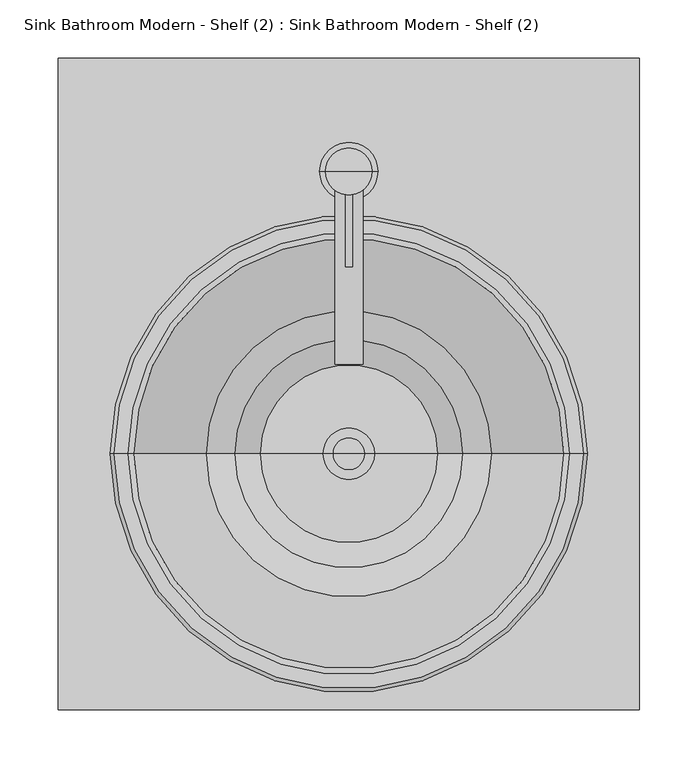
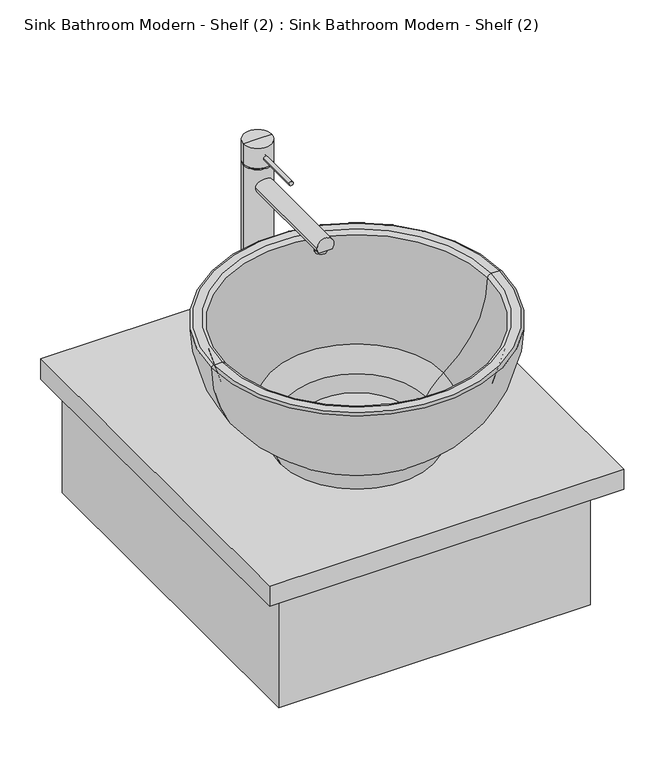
"""IFC4 building model written with IfcOpenShell, lengths in millimetres: flow terminal geometry, Sink Bathroom Modern - Shelf (2) : Sink Bathroom Modern - Shelf (2)."""

from ifc_helpers import new_model, si_unit, point, frame, frame_2d, origin, place, context, project, spatial, polyline, circle_curve, ellipse_curve, trimmed, segment, composite_curve, outline, extrude, source, transform, mapped, element, save
from ifc_brep_helpers import plane_surface, cylinder_surface, revolved_surface, advanced_brep


def sink_bathroom_modern_shelf_2_sink_bathroom_modern_shelf_2_e763d6b9(model_context):
    return source(origin(), model_context, "Body", "SolidModel", [
        advanced_brep(
        [(36.8498666, -263.0115865, 240.6419785), (12.8498666, -263.0115865, 240.6419785), (15.4584351, -263.0115865, 233.1719709), (34.2412981, -263.0115865, 233.1719709), (12.8498666, -97.3032703, 240.6419785), (36.8498666, -97.3032703, 240.6419785), (34.2412981, -238.0115865, 233.1719709), (15.4584351, -238.0115865, 233.1719709)],
        [
            (0, 1, circle_curve(frame((24.8498666, -263.0115865, 240.6419785), z_axis=(0.0, -1.0, 0.0), x_axis=(1.0000000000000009, 0.0, 0.0)), 12.0)),
            (1, 2, circle_curve(frame((24.8498666, -263.0115865, 240.6419785), z_axis=(0.0, -1.0, 0.0), x_axis=(1.0000000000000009, 0.0, 0.0)), 12.0)),
            (2, 3),
            (3, 0, circle_curve(frame((24.8498666, -263.0115865, 240.6419785), z_axis=(0.0, -1.0, 0.0), x_axis=(1.0000000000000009, 0.0, 0.0)), 12.0)),
            (4, 5, circle_curve(frame((24.8498666, -97.3032703, 240.6419785), z_axis=(0.0, 1.0, 0.0), x_axis=(1.0000000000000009, 0.0, 0.0)), 12.0)),
            (5, 4, circle_curve(frame((24.8498666, -97.3032703, 240.6419785), z_axis=(0.0, 1.0, 0.0), x_axis=(1.0000000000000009, 0.0, 0.0)), 12.0)),
            (5, 0),
            (3, 6),
            (6, 7, circle_curve(frame((24.8498666, -238.0115865, 240.6419785), z_axis=(0.0, 1.0, 0.0), x_axis=(1.0000000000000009, 0.0, 0.0)), 12.0)),
            (7, 2),
            (1, 4),
            (7, 6),
        ],
        [
            plane_surface(frame((36.8498666, -263.0115865, 240.6419785), z_axis=(0.0, -1.0, 0.0), x_axis=(0.0, 0.0, 1.0))),
            plane_surface(frame((36.8498666, -97.3032703, 240.6419785), z_axis=(0.0, 1.0, 0.0), x_axis=(0.0, 0.0, -1.0))),
            cylinder_surface(frame((24.8498666, -97.3032703, 240.6419785), z_axis=(0.0, -1.0000000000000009, 0.0), x_axis=(1.0000000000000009, 0.0, 0.0)), 12.0),
            plane_surface(frame((9.4348983, -263.0115865, 233.1719709), z_axis=(0.0, 0.0, -1.0), x_axis=(1.0, 0.0, 0.0))),
            plane_surface(frame((9.4348983, -238.0115865, 233.1719709), z_axis=(0.0, -1.0, 0.0), x_axis=(1.0, 0.0, 0.0))),
        ],
        [
            (0, [[1, 2, 3, 4]]),
            (1, [[5, 6]]),
            (2, [[-6, 7, -4, 8, 9, 10, -2, 11]]),
            (2, [[-1, -7, -5, -11]]),
            (3, [[12, -8, -3, -10]]),
            (4, [[-12, -9]]),
        ],
    ),
        extrude(outline(composite_curve([segment(trimmed(circle_curve(frame_2d((283.2676852, 24.8498666)), 3.0), [point((283.2676852, 21.8498666))], [point((283.2676852, 27.8498666))], False, "CARTESIAN"), True, "CONTINUOUS"), segment(trimmed(circle_curve(frame_2d((283.2676852, 24.8498666)), 3.0), [point((283.2676852, 27.8498666))], [point((283.2676852, 21.8498666))], False, "CARTESIAN"), True, "CONTINUOUS")], self_intersect=False)), frame((0.0, -179.3463368, 0.0), z_axis=(0.0, 1.0, 0.0), x_axis=(0.0, 0.0, 1.0)), (0.0, 0.0, 1.0), 82.0430665),
        advanced_brep(
        [(24.8498666, -97.3032703, 0.0), (-0.1501334, -97.3032703, 0.0), (49.8498666, -97.3032703, 0.0), (44.8498666, -97.3032703, 300.0), (4.8498666, -97.3032703, 300.0), (24.8498666, -97.3032703, 300.0), (44.8498666, -97.3032703, 270.0), (4.8498666, -97.3032703, 270.0), (42.8498666, -97.3032703, 270.0), (6.8498666, -97.3032703, 270.0), (42.8498666, -97.3032703, 268.0), (6.8498666, -97.3032703, 268.0), (44.8498666, -97.3032703, 268.0), (4.8498666, -97.3032703, 268.0), (44.8498666, -97.3032703, 4.0), (4.8498666, -97.3032703, 4.0), (49.8498666, -97.3032703, 4.0), (-0.1501334, -97.3032703, 4.0)],
        [
            (0, 1),
            (1, 2, circle_curve(frame((24.8498666, -97.3032703, 0.0), z_axis=(0.0, 0.0, -1.0), x_axis=(-1.0000000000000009, 0.0, 0.0)), 25.0)),
            (2, 0),
            (2, 1, circle_curve(frame((24.8498666, -97.3032703, 0.0), z_axis=(0.0, 0.0, -1.0), x_axis=(-1.0000000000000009, 0.0, 0.0)), 25.0)),
            (3, 4, circle_curve(frame((24.8498666, -97.3032703, 300.0), z_axis=(0.0, 0.0, 1.0), x_axis=(-1.0000000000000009, 0.0, 0.0)), 20.0)),
            (4, 5),
            (5, 3),
            (4, 3, circle_curve(frame((24.8498666, -97.3032703, 300.0), z_axis=(0.0, 0.0, 1.0), x_axis=(-1.0000000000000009, 0.0, 0.0)), 20.0)),
            (3, 6),
            (6, 7, circle_curve(frame((24.8498666, -97.3032703, 270.0), z_axis=(0.0, 0.0, 1.0), x_axis=(-1.0000000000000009, 0.0, 0.0)), 20.0)),
            (7, 4),
            (7, 6, circle_curve(frame((24.8498666, -97.3032703, 270.0), z_axis=(0.0, 0.0, 1.0), x_axis=(-1.0000000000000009, 0.0, 0.0)), 20.0)),
            (6, 8),
            (8, 9, circle_curve(frame((24.8498666, -97.3032703, 270.0), z_axis=(0.0, 0.0, 1.0), x_axis=(-1.0000000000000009, 0.0, 0.0)), 18.0)),
            (9, 7),
            (9, 8, circle_curve(frame((24.8498666, -97.3032703, 270.0), z_axis=(0.0, 0.0, 1.0), x_axis=(-1.0000000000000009, 0.0, 0.0)), 18.0)),
            (8, 10),
            (10, 11, circle_curve(frame((24.8498666, -97.3032703, 268.0), z_axis=(0.0, 0.0, 1.0), x_axis=(-1.0000000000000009, 0.0, 0.0)), 18.0)),
            (11, 9),
            (11, 10, circle_curve(frame((24.8498666, -97.3032703, 268.0), z_axis=(0.0, 0.0, 1.0), x_axis=(-1.0000000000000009, 0.0, 0.0)), 18.0)),
            (10, 12),
            (12, 13, circle_curve(frame((24.8498666, -97.3032703, 268.0), z_axis=(0.0, 0.0, 1.0), x_axis=(-1.0000000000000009, 0.0, 0.0)), 20.0)),
            (13, 11),
            (13, 12, circle_curve(frame((24.8498666, -97.3032703, 268.0), z_axis=(0.0, 0.0, 1.0), x_axis=(-1.0000000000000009, 0.0, 0.0)), 20.0)),
            (12, 14),
            (14, 15, circle_curve(frame((24.8498666, -97.3032703, 4.0), z_axis=(0.0, 0.0, 1.0), x_axis=(-1.0000000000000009, 0.0, 0.0)), 20.0)),
            (15, 13),
            (15, 14, circle_curve(frame((24.8498666, -97.3032703, 4.0), z_axis=(0.0, 0.0, 1.0), x_axis=(-1.0000000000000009, 0.0, 0.0)), 20.0)),
            (14, 16),
            (16, 17, circle_curve(frame((24.8498666, -97.3032703, 4.0), z_axis=(0.0, 0.0, 1.0), x_axis=(-1.0000000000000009, 0.0, 0.0)), 25.0)),
            (17, 15),
            (17, 16, circle_curve(frame((24.8498666, -97.3032703, 4.0), z_axis=(0.0, 0.0, 1.0), x_axis=(-1.0000000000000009, 0.0, 0.0)), 25.0)),
            (1, 17),
            (16, 2),
        ],
        [
            plane_surface(frame((24.8498666, -97.3032703, 0.0), z_axis=(0.0, 0.0, -1.0), x_axis=(-1.0, 0.0, 0.0))),
            plane_surface(frame((24.8498666, -97.3032703, 300.0), z_axis=(0.0, 0.0, 1.0), x_axis=(-1.0, 0.0, 0.0))),
            cylinder_surface(frame((24.8498666, -97.3032703, -25.0), z_axis=(0.0, 0.0, -1.0), x_axis=(-1.0000000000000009, 0.0, 0.0)), 20.0),
            plane_surface(frame((24.8498666, -97.3032703, 270.0), z_axis=(0.0, 0.0, -1.0), x_axis=(-1.0, 0.0, 0.0))),
            cylinder_surface(frame((24.8498666, -97.3032703, -25.0), z_axis=(0.0, 0.0, -1.0), x_axis=(-1.0000000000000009, 0.0, 0.0)), 18.0),
            plane_surface(frame((24.8498666, -97.3032703, 268.0), z_axis=(0.0, 0.0, 1.0), x_axis=(-1.0, 0.0, 0.0))),
            plane_surface(frame((24.8498666, -97.3032703, 4.0), z_axis=(0.0, 0.0, 1.0), x_axis=(-1.0, 0.0, 0.0))),
            cylinder_surface(frame((24.8498666, -97.3032703, -25.0), z_axis=(0.0, 0.0, -1.0), x_axis=(-1.0000000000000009, 0.0, 0.0)), 25.0),
        ],
        [
            (0, [[1, 2, 3]]),
            (0, [[-1, -3, 4]]),
            (1, [[5, 6, 7]]),
            (1, [[-6, 8, -7]]),
            (2, [[-5, 9, 10, 11]]),
            (2, [[-8, -11, 12, -9]]),
            (3, [[-10, 13, 14, 15]]),
            (3, [[-12, -15, 16, -13]]),
            (4, [[-14, 17, 18, 19]]),
            (4, [[-16, -19, 20, -17]]),
            (5, [[-18, 21, 22, 23]]),
            (5, [[-20, -23, 24, -21]]),
            (2, [[-22, 25, 26, 27]]),
            (2, [[-24, -27, 28, -25]]),
            (6, [[-26, 29, 30, 31]]),
            (6, [[-28, -31, 32, -29]]),
            (7, [[-2, 33, -30, 34]]),
            (7, [[-4, -34, -32, -33]]),
        ],
    ),
        advanced_brep(
        [(16.8498666, -251.7329747, 233.1719709), (32.8498666, -251.7329747, 233.1719709), (16.8498666, -251.7329747, 227.0717002), (32.8498666, -251.7329747, 227.0717002)],
        [
            (0, 1, circle_curve(frame((24.8498666, -251.7329747, 233.1719709), z_axis=(0.0, 0.0, 1.0), x_axis=(1.0000000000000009, 0.0, 0.0)), 8.0)),
            (1, 0, circle_curve(frame((24.8498666, -251.7329747, 233.1719709), z_axis=(0.0, 0.0, 1.0), x_axis=(1.0000000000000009, 0.0, 0.0)), 8.0)),
            (2, 3, circle_curve(frame((24.8498666, -251.7329747, 227.0717002), z_axis=(0.0, 0.0, -1.0), x_axis=(1.0000000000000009, 0.0, 0.0)), 8.0)),
            (3, 2, circle_curve(frame((24.8498666, -251.7329747, 227.0717002), z_axis=(0.0, 0.0, -1.0), x_axis=(1.0000000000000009, 0.0, 0.0)), 8.0)),
            (0, 2),
            (3, 1),
        ],
        [
            plane_surface(frame((32.8498666, -251.7329747, 233.1719709), z_axis=(0.0, 0.0, 1.0), x_axis=(0.0, 1.0, 0.0))),
            plane_surface(frame((32.8498666, -251.7329747, 227.0717002), z_axis=(0.0, 0.0, -1.0), x_axis=(0.0, -1.0, 0.0))),
            cylinder_surface(frame((24.8498666, -251.7329747, 227.0717002), z_axis=(0.0, 0.0, 1.0), x_axis=(1.0000000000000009, 0.0, 0.0)), 8.0),
        ],
        [
            (0, [[1, 2]]),
            (1, [[3, 4]]),
            (2, [[-1, 5, -4, 6]]),
            (2, [[-2, -6, -3, -5]]),
        ],
    ),
        extrude(outline(polyline([(244.8498666, 0.0), (244.8498666, -530.0), (-195.1501334, -530.0), (-195.1501334, 0.0), (244.8498666, 0.0)])), frame((0.0, 0.0, -210.1486732), z_axis=(0.0, 0.0, 1.0), x_axis=(1.0, 0.0, 0.0)), (0.0, 0.0, 1.0), 180.1486732),
        advanced_brep(
        [(38.5877729, -340.0, 15.0), (11.1119603, -340.0, 15.0), (2.8498666, -340.0, 15.0), (46.8498666, -340.0, 15.0), (38.5877729, -340.0, 3.7247134), (11.1119603, -340.0, 3.7247134), (24.8498666, -340.0, 3.7247134), (41.8498666, -340.0, 0.0), (7.8498666, -340.0, 0.0), (24.8498666, -340.0, 0.0), (41.8498666, -340.0, 13.464751), (7.8498666, -340.0, 13.464751), (46.8498666, -340.0, 13.464751), (2.8498666, -340.0, 13.464751)],
        [
            (0, 1, circle_curve(frame((24.8498666, -340.0, 15.0), z_axis=(0.0, 0.0, -1.0), x_axis=(-1.0, 0.0, 0.0)), 13.7379063)),
            (1, 2),
            (2, 3, circle_curve(frame((24.8498666, -340.0, 15.0), z_axis=(0.0, 0.0, 1.0), x_axis=(-1.0, 0.0, 0.0)), 22.0)),
            (3, 0),
            (1, 0, circle_curve(frame((24.8498666, -340.0, 15.0), z_axis=(0.0, 0.0, -1.0), x_axis=(-1.0, 0.0, 0.0)), 13.7379063)),
            (3, 2, circle_curve(frame((24.8498666, -340.0, 15.0), z_axis=(0.0, 0.0, 1.0), x_axis=(-1.0, 0.0, 0.0)), 22.0)),
            (4, 5, circle_curve(frame((24.8498666, -340.0, 3.7247134), z_axis=(0.0, 0.0, -1.0), x_axis=(-1.0, 0.0, 0.0)), 13.7379063)),
            (5, 1),
            (0, 4),
            (5, 4, circle_curve(frame((24.8498666, -340.0, 3.7247134), z_axis=(0.0, 0.0, -1.0), x_axis=(-1.0, 0.0, 0.0)), 13.7379063)),
            (6, 5),
            (4, 6),
            (7, 8, circle_curve(frame((24.8498666, -340.0, 0.0), z_axis=(0.0, 0.0, -1.0), x_axis=(-1.0, 0.0, 0.0)), 17.0)),
            (8, 9),
            (9, 7),
            (8, 7, circle_curve(frame((24.8498666, -340.0, 0.0), z_axis=(0.0, 0.0, -1.0), x_axis=(-1.0, 0.0, 0.0)), 17.0)),
            (10, 11, circle_curve(frame((24.8498666, -340.0, 13.464751), z_axis=(0.0, 0.0, -1.0), x_axis=(-1.0, 0.0, 0.0)), 17.0)),
            (11, 8),
            (7, 10),
            (11, 10, circle_curve(frame((24.8498666, -340.0, 13.464751), z_axis=(0.0, 0.0, -1.0), x_axis=(-1.0, 0.0, 0.0)), 17.0)),
            (12, 13, circle_curve(frame((24.8498666, -340.0, 13.464751), z_axis=(0.0, 0.0, -1.0), x_axis=(-1.0, 0.0, 0.0)), 22.0)),
            (13, 11),
            (10, 12),
            (13, 12, circle_curve(frame((24.8498666, -340.0, 13.464751), z_axis=(0.0, 0.0, -1.0), x_axis=(-1.0, 0.0, 0.0)), 22.0)),
            (2, 13),
            (12, 3),
        ],
        [
            plane_surface(frame((24.8498666, -340.0, 15.0), z_axis=(0.0, 0.0, 1.0), x_axis=(-1.0, 0.0, 0.0))),
            revolved_surface(polyline([(11.111960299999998, -340.0, 15.000000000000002), (11.111960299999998, -340.0, 3.7247134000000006)]), (24.8498666, -340.0, -6.9916745), (0.0, 0.0, 1.0)),
            plane_surface(frame((24.8498666, -340.0, 3.7247134), z_axis=(0.0, 0.0, 1.0), x_axis=(-1.0, 0.0, 0.0))),
            plane_surface(frame((24.8498666, -340.0, 0.0), z_axis=(0.0, 0.0, -1.0), x_axis=(-1.0, 0.0, 0.0))),
            cylinder_surface(frame((24.8498666, -340.0, -6.9916745), z_axis=(0.0, 0.0, 1.0), x_axis=(-1.0, 0.0, 0.0)), 17.0),
            plane_surface(frame((24.8498666, -340.0, 13.464751), z_axis=(0.0, 0.0, -1.0), x_axis=(-1.0, 0.0, 0.0))),
            cylinder_surface(frame((24.8498666, -340.0, -6.9916745), z_axis=(0.0, 0.0, 1.0), x_axis=(-1.0, 0.0, 0.0)), 22.0),
        ],
        [
            (0, [[1, 2, 3, 4]]),
            (0, [[5, -4, 6, -2]]),
            (1, [[7, 8, -1, 9]]),
            (1, [[10, -9, -5, -8]]),
            (2, [[11, -7, 12]]),
            (2, [[-12, -10, -11]]),
            (3, [[13, 14, 15]]),
            (3, [[16, -15, -14]]),
            (4, [[17, 18, -13, 19]]),
            (4, [[20, -19, -16, -18]]),
            (5, [[21, 22, -17, 23]]),
            (5, [[24, -23, -20, -22]]),
            (6, [[-3, 25, -21, 26]]),
            (6, [[-6, -26, -24, -25]]),
        ],
    ),
        extrude(outline(polyline([(274.8498666, 0.0), (274.8498666, -560.0), (-225.1501334, -560.0), (-225.1501334, 0.0), (274.8498666, 0.0)])), frame((0.0, 0.0, -30.0), z_axis=(0.0, 0.0, 1.0), x_axis=(1.0, 0.0, 0.0)), (0.0, 0.0, 1.0), 30.0),
        advanced_brep(
        [(159.492516, -340.0, 38.9404698), (-109.7927828, -340.0, 38.9404698), (-83.6446991, -340.0, 0.0149562), (133.3444323, -340.0, 0.0149562), (229.8893941, -340.0, 176.9639382), (-180.1896609, -340.0, 176.9639382), (226.8893975, -340.0, 179.9594217), (-177.1896643, -340.0, 179.9594217), (214.8413431, -340.0, 179.9594217), (-165.1416099, -340.0, 179.9594217), (209.8416315, -340.0, 175.0131262), (-160.1418983, -340.0, 175.0131262), (147.7614611, -340.0, 55.100298), (-98.0617279, -340.0, 55.100298), (123.0230307, -340.0, 27.5820235), (-73.3232975, -340.0, 27.5820235), (101.325246, -340.0, 15.0), (-51.6255129, -340.0, 15.0), (46.8498666, -340.0, 15.0), (2.8498666, -340.0, 15.0), (46.8498666, -340.0, 13.464751), (2.8498666, -340.0, 13.464751), (41.8498666, -340.0, 13.464751), (7.8498666, -340.0, 13.464751), (41.8498666, -340.0, 0.0149562), (7.8498666, -340.0, 0.0149562)],
        [
            (0, 1, circle_curve(frame((24.8498666, -340.0, 38.9404698), z_axis=(0.0, 0.0, -1.0), x_axis=(-1.0, 0.0, 0.0)), 134.6426494)),
            (1, 2, circle_curve(frame((-149.498803, -340.0, -15.9771174), z_axis=(0.0, 1.0, 0.0), x_axis=(-1.0, 0.0, 0.0)), 67.7680561)),
            (2, 3, circle_curve(frame((24.8498666, -340.0, 0.0149562), z_axis=(0.0, 0.0, 1.0), x_axis=(-1.0, 0.0, 0.0)), 108.4945657)),
            (3, 0, circle_curve(frame((199.1985362, -340.0, -15.9771174), z_axis=(0.0, 1.0, 0.0), x_axis=(1.0, 0.0, 0.0)), 67.7680561)),
            (1, 0, circle_curve(frame((24.8498666, -340.0, 38.9404698), z_axis=(0.0, 0.0, -1.0), x_axis=(-1.0, 0.0, 0.0)), 134.6426494)),
            (3, 2, circle_curve(frame((24.8498666, -340.0, 0.0149562), z_axis=(0.0, 0.0, 1.0), x_axis=(-1.0, 0.0, 0.0)), 108.4945657)),
            (4, 5, circle_curve(frame((24.8498666, -340.0, 176.9639382), z_axis=(0.0, 0.0, -1.0), x_axis=(-1.0, 0.0, 0.0)), 205.0395275)),
            (5, 1, circle_curve(frame((-10.185344, -340.0, 176.7079965), z_axis=(0.0, -1.0, 0.0), x_axis=(-1.0, 0.0, 0.0)), 170.0045096)),
            (0, 4, circle_curve(frame((59.8850772, -340.0, 176.7079965), z_axis=(0.0, -1.0, 0.0), x_axis=(1.0, 0.0, 0.0)), 170.0045096)),
            (5, 4, circle_curve(frame((24.8498666, -340.0, 176.9639382), z_axis=(0.0, 0.0, -1.0), x_axis=(-1.0, 0.0, 0.0)), 205.0395275)),
            (6, 7, circle_curve(frame((24.8498666, -340.0, 179.9594217), z_axis=(0.0, 0.0, -1.0), x_axis=(-1.0, 0.0, 0.0)), 202.0395309)),
            (7, 5, circle_curve(frame((-177.1896643, -340.0, 176.9594217), z_axis=(0.0, -1.0, 0.0), x_axis=(-1.0, 0.0, 0.0)), 3.0)),
            (4, 6, circle_curve(frame((226.8893975, -340.0, 176.9594217), z_axis=(0.0, -1.0, 0.0), x_axis=(1.0, 0.0, 0.0)), 3.0)),
            (7, 6, circle_curve(frame((24.8498666, -340.0, 179.9594217), z_axis=(0.0, 0.0, -1.0), x_axis=(-1.0, 0.0, 0.0)), 202.0395309)),
            (8, 9, circle_curve(frame((24.8498666, -340.0, 179.9594217), z_axis=(0.0, 0.0, -1.0), x_axis=(-1.0, 0.0, 0.0)), 189.9914765)),
            (9, 7),
            (6, 8),
            (9, 8, circle_curve(frame((24.8498666, -340.0, 179.9594217), z_axis=(0.0, 0.0, -1.0), x_axis=(-1.0, 0.0, 0.0)), 189.9914765)),
            (10, 11, circle_curve(frame((24.8498666, -340.0, 175.0131262), z_axis=(0.0, 0.0, -1.0), x_axis=(-1.0, 0.0, 0.0)), 184.9917649)),
            (11, 9, circle_curve(frame((-165.1416099, -340.0, 174.9594217), z_axis=(0.0, -1.0, 0.0), x_axis=(-1.0, 0.0, 0.0)), 5.0)),
            (8, 10, circle_curve(frame((214.8413431, -340.0, 174.9594217), z_axis=(0.0, -1.0, 0.0), x_axis=(1.0, 0.0, 0.0)), 5.0)),
            (11, 10, circle_curve(frame((24.8498666, -340.0, 175.0131262), z_axis=(0.0, 0.0, -1.0), x_axis=(-1.0, 0.0, 0.0)), 184.9917649)),
            (12, 13, circle_curve(frame((24.8498666, -340.0, 55.100298), z_axis=(0.0, 0.0, -1.0), x_axis=(-1.0, 0.0, 0.0)), 122.9115945)),
            (13, 11, circle_curve(frame((-10.1797596, -340.0, 176.6239477), z_axis=(0.0, 1.0, 0.0), x_axis=(-1.0, 0.0, 0.0)), 149.9707898)),
            (10, 12, circle_curve(frame((59.8794928, -340.0, 176.6239477), z_axis=(0.0, 1.0, 0.0), x_axis=(1.0, 0.0, 0.0)), 149.9707898)),
            (13, 12, circle_curve(frame((24.8498666, -340.0, 55.100298), z_axis=(0.0, 0.0, -1.0), x_axis=(-1.0, 0.0, 0.0)), 122.9115945)),
            (14, 15, circle_curve(frame((24.8498666, -340.0, 27.5820235), z_axis=(0.0, 0.0, -1.0), x_axis=(-1.0, 0.0, 0.0)), 98.1731641)),
            (15, 13, circle_curve(frame((-149.4830487, -340.0, -16.0053759), z_axis=(0.0, -1.0, 0.0), x_axis=(-1.0, 0.0, 0.0)), 87.7506073)),
            (12, 14, circle_curve(frame((199.1827819, -340.0, -16.0053759), z_axis=(0.0, -1.0, 0.0), x_axis=(1.0, 0.0, 0.0)), 87.7506073)),
            (15, 14, circle_curve(frame((24.8498666, -340.0, 27.5820235), z_axis=(0.0, 0.0, -1.0), x_axis=(-1.0, 0.0, 0.0)), 98.1731641)),
            (16, 17, circle_curve(frame((24.8498666, -340.0, 15.0), z_axis=(0.0, 0.0, -1.0), x_axis=(-1.0, 0.0, 0.0)), 76.4753794)),
            (17, 15, circle_curve(frame((-51.6255129, -340.0, 40.0), z_axis=(0.0, 1.0, 0.0), x_axis=(-1.0, 0.0, 0.0)), 25.0)),
            (14, 16, circle_curve(frame((101.325246, -340.0, 40.0), z_axis=(0.0, 1.0, 0.0), x_axis=(1.0, 0.0, 0.0)), 25.0)),
            (17, 16, circle_curve(frame((24.8498666, -340.0, 15.0), z_axis=(0.0, 0.0, -1.0), x_axis=(-1.0, 0.0, 0.0)), 76.4753794)),
            (18, 19, circle_curve(frame((24.8498666, -340.0, 15.0), z_axis=(0.0, 0.0, -1.0), x_axis=(-1.0, 0.0, 0.0)), 22.0)),
            (19, 17),
            (16, 18),
            (19, 18, circle_curve(frame((24.8498666, -340.0, 15.0), z_axis=(0.0, 0.0, -1.0), x_axis=(-1.0, 0.0, 0.0)), 22.0)),
            (20, 21, circle_curve(frame((24.8498666, -340.0, 13.464751), z_axis=(0.0, 0.0, -1.0), x_axis=(-1.0, 0.0, 0.0)), 22.0)),
            (21, 19),
            (18, 20),
            (21, 20, circle_curve(frame((24.8498666, -340.0, 13.464751), z_axis=(0.0, 0.0, -1.0), x_axis=(-1.0, 0.0, 0.0)), 22.0)),
            (22, 23, circle_curve(frame((24.8498666, -340.0, 13.464751), z_axis=(0.0, 0.0, -1.0), x_axis=(-1.0, 0.0, 0.0)), 17.0)),
            (23, 21),
            (20, 22),
            (23, 22, circle_curve(frame((24.8498666, -340.0, 13.464751), z_axis=(0.0, 0.0, -1.0), x_axis=(-1.0, 0.0, 0.0)), 17.0)),
            (24, 25, circle_curve(frame((24.8498666, -340.0, 0.0149562), z_axis=(0.0, 0.0, -1.0), x_axis=(-1.0, 0.0, 0.0)), 17.0)),
            (25, 23),
            (22, 24),
            (25, 24, circle_curve(frame((24.8498666, -340.0, 0.0149562), z_axis=(0.0, 0.0, -1.0), x_axis=(-1.0, 0.0, 0.0)), 17.0)),
            (2, 25),
            (24, 3),
        ],
        [
            revolved_surface(trimmed(ellipse_curve(frame((-149.498803, -340.0, -15.9771174), z_axis=(0.0, -1.0, 0.0), x_axis=(-1.0, 0.0, 0.0)), 67.7680561, 67.7680561), [point((-83.6446991, -340.0, 0.0149562))], [point((-109.7927828, -340.0, 38.9404698))], True, "CARTESIAN"), (24.8498666, -340.0, -50.0), (0.0, 0.0, 1.0)),
            revolved_surface(trimmed(ellipse_curve(frame((-10.185344, -340.0, 176.7079965), z_axis=(0.0, 1.0, 0.0), x_axis=(-1.0, 0.0, 0.0)), 170.0045096, 170.0045096), [point((-109.7927828, -340.0, 38.9404698))], [point((-180.1896609, -340.0, 176.9639382))], True, "CARTESIAN"), (24.8498666, -340.0, -50.0), (0.0, 0.0, 1.0)),
            revolved_surface(trimmed(ellipse_curve(frame((-177.1896643, -340.0, 176.9594217), z_axis=(0.0, 1.0, 0.0), x_axis=(-1.0, 0.0, 0.0)), 3.0, 3.0), [point((-180.1896609, -340.0, 176.9639382))], [point((-177.1896643, -340.0, 179.9594217))], True, "CARTESIAN"), (24.8498666, -340.0, -50.0), (0.0, 0.0, 1.0)),
            plane_surface(frame((24.8498666, -340.0, 179.9594217), z_axis=(0.0, 0.0, 1.0), x_axis=(-1.0, 0.0, 0.0))),
            revolved_surface(trimmed(ellipse_curve(frame((-165.1416099, -340.0, 174.9594217), z_axis=(0.0, 1.0, 0.0), x_axis=(-1.0, 0.0, 0.0)), 5.0, 5.0), [point((-165.1416099, -340.0, 179.9594217))], [point((-160.1418983, -340.0, 175.0131262))], True, "CARTESIAN"), (24.8498666, -340.0, -50.0), (0.0, 0.0, 1.0)),
            revolved_surface(trimmed(ellipse_curve(frame((-10.1797596, -340.0, 176.6239477), z_axis=(0.0, -1.0, 0.0), x_axis=(-1.0, 0.0, 0.0)), 149.9707898, 149.9707898), [point((-160.1418983, -340.0, 175.0131262))], [point((-98.0617279, -340.0, 55.100298))], True, "CARTESIAN"), (24.8498666, -340.0, -50.0), (0.0, 0.0, 1.0)),
            revolved_surface(trimmed(ellipse_curve(frame((-149.4830487, -340.0, -16.0053759), z_axis=(0.0, 1.0, 0.0), x_axis=(-1.0, 0.0, 0.0)), 87.7506073, 87.7506073), [point((-98.0617279, -340.0, 55.100298))], [point((-73.3232975, -340.0, 27.5820235))], True, "CARTESIAN"), (24.8498666, -340.0, -50.0), (0.0, 0.0, 1.0)),
            revolved_surface(trimmed(ellipse_curve(frame((-51.6255129, -340.0, 40.0), z_axis=(0.0, -1.0, 0.0), x_axis=(-1.0, 0.0, 0.0)), 25.0, 25.0), [point((-73.3232975, -340.0, 27.5820235))], [point((-51.6255129, -340.0, 15.0))], True, "CARTESIAN"), (24.8498666, -340.0, -50.0), (0.0, 0.0, 1.0)),
            plane_surface(frame((24.8498666, -340.0, 15.0), z_axis=(0.0, 0.0, 1.0), x_axis=(-1.0, 0.0, 0.0))),
            revolved_surface(polyline([(2.8498665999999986, -340.0, 15.0), (2.8498665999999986, -340.0, 13.464751)]), (24.8498666, -340.0, -50.0), (0.0, 0.0, 1.0)),
            plane_surface(frame((24.8498666, -340.0, 13.464751), z_axis=(0.0, 0.0, 1.0), x_axis=(-1.0, 0.0, 0.0))),
            revolved_surface(polyline([(7.849866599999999, -340.0, 13.464751), (7.849866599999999, -340.0, 0.014956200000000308)]), (24.8498666, -340.0, -50.0), (0.0, 0.0, 1.0)),
            plane_surface(frame((24.8498666, -340.0, 0.0149562), z_axis=(0.0, 0.0, -1.0), x_axis=(-1.0, 0.0, 0.0))),
        ],
        [
            (0, [[1, 2, 3, 4]]),
            (0, [[5, -4, 6, -2]]),
            (1, [[7, 8, -1, 9]]),
            (1, [[10, -9, -5, -8]]),
            (2, [[11, 12, -7, 13]]),
            (2, [[14, -13, -10, -12]]),
            (3, [[15, 16, -11, 17]]),
            (3, [[18, -17, -14, -16]]),
            (4, [[19, 20, -15, 21]]),
            (4, [[22, -21, -18, -20]]),
            (5, [[23, 24, -19, 25]]),
            (5, [[26, -25, -22, -24]]),
            (6, [[27, 28, -23, 29]]),
            (6, [[30, -29, -26, -28]]),
            (7, [[31, 32, -27, 33]]),
            (7, [[34, -33, -30, -32]]),
            (8, [[35, 36, -31, 37]]),
            (8, [[38, -37, -34, -36]]),
            (9, [[39, 40, -35, 41]]),
            (9, [[42, -41, -38, -40]]),
            (10, [[43, 44, -39, 45]]),
            (10, [[46, -45, -42, -44]]),
            (11, [[47, 48, -43, 49]]),
            (11, [[50, -49, -46, -48]]),
            (12, [[-3, 51, -47, 52]]),
            (12, [[-6, -52, -50, -51]]),
        ],
    ),
    ])


if __name__ == "__main__":
    model = new_model("IFC4")
    model_context = context("Model", 3, world=origin())
    ifc_project = project(units=[si_unit("LENGTHUNIT", "METRE", prefix="MILLI")], contexts=[model_context])
    site = spatial("IfcSite", under=ifc_project)
    building = spatial("IfcBuilding", under=site)
    placement = place(None, origin())
    sink_bathroom_modern_shelf_2_sink_bathroom_modern_shelf_2_shape = sink_bathroom_modern_shelf_2_sink_bathroom_modern_shelf_2_e763d6b9(model_context)
    element("IfcFlowTerminal", 1, ObjectType="Sink Bathroom Modern - Shelf (2) : Sink Bathroom Modern - Shelf (2)", at=placement, inside=building, context=model_context, shape_type="MappedRepresentation", body=[
        mapped(sink_bathroom_modern_shelf_2_sink_bathroom_modern_shelf_2_shape, transform((0.0, 0.0, 0.0), x_axis=(1.0, 0.0, 0.0), y_axis=(0.0, 1.0, 0.0), z_axis=(0.0, 0.0, 1.0))),
    ])
    save(model, "model.ifc")
